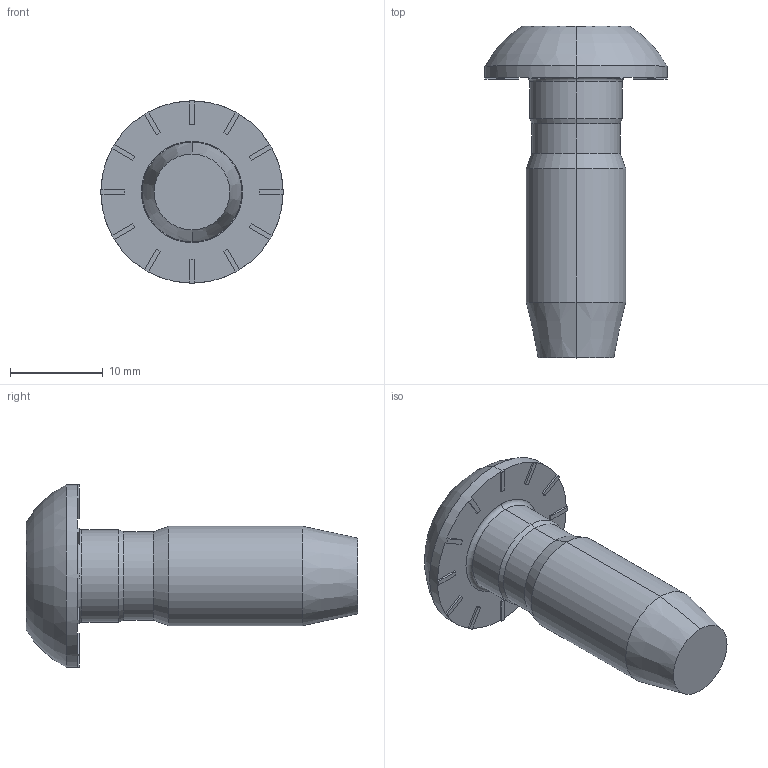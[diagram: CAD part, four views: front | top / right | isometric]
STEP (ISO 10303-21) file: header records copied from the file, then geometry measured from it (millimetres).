
FILE_DESCRIPTION (( 'STEP AP214' ), '1' );
FILE_NAME ('093s1230t.STEP', '2012-07-30T10:23:21', ( '' ), ( '' ), 'SwSTEP 2.0', 'SolidWorks 2012', '' );
FILE_SCHEMA (( 'AUTOMOTIVE_DESIGN' ));
Length unit declared in the file: millimetre
Products named in the file (1): 093s1230t
Bounding box: 19.6 x 35.7 x 19.6 mm (x, y, z)
Volume: 3543.1 mm3; surface area: 1839.5 mm2
Topology: 1 solids, 1 shells, 100 faces, 272 edges, 176 vertices
Faces by surface type: plane 52, cylinder 34, cone 10, torus 4
Entity records: 3370 total; most frequent: CARTESIAN_POINT 841, ORIENTED_EDGE 544, DIRECTION 502, EDGE_CURVE 272, AXIS2_PLACEMENT_3D 181, VERTEX_POINT 176, VECTOR 140, LINE 140
